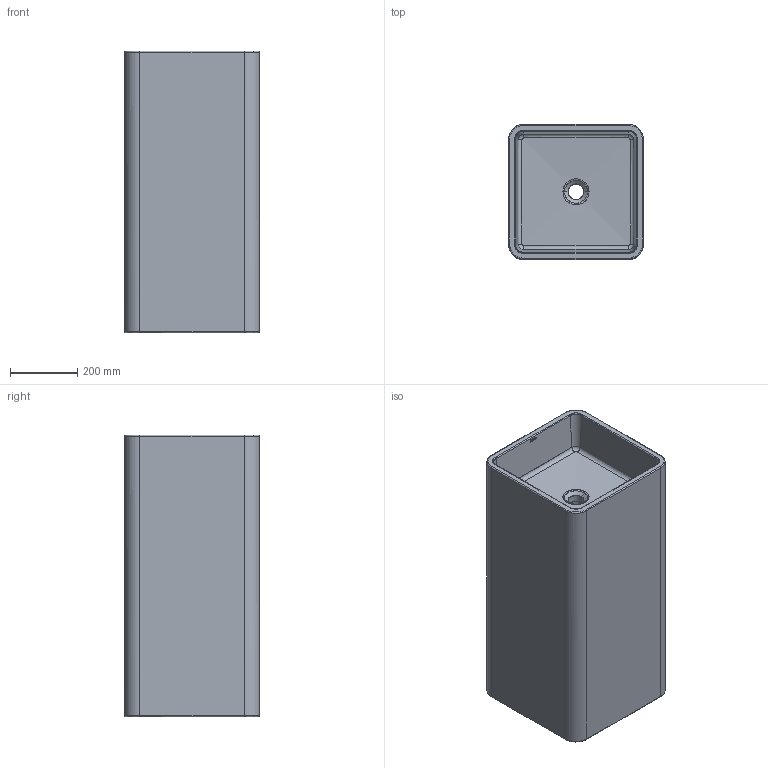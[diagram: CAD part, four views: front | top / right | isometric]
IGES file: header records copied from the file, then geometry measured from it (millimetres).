
Global section: file name: C:\Users\User\Desktop\4164_ARENAS.igs; native system: Rhinoceros ( May  7 2021 ); preprocessor: Trout Lake IGES 012 May  7 2021; date: 220621.120553; units: millimetre
Bounding box: 400 x 400 x 835 mm (x, y, z)
Surface area: 3027096.6 mm2 (no closed solid volume)
Topology: 0 solids, 0 shells, 178 faces, 1629 edges, 1620 vertices
Faces by surface type: bspline 178
